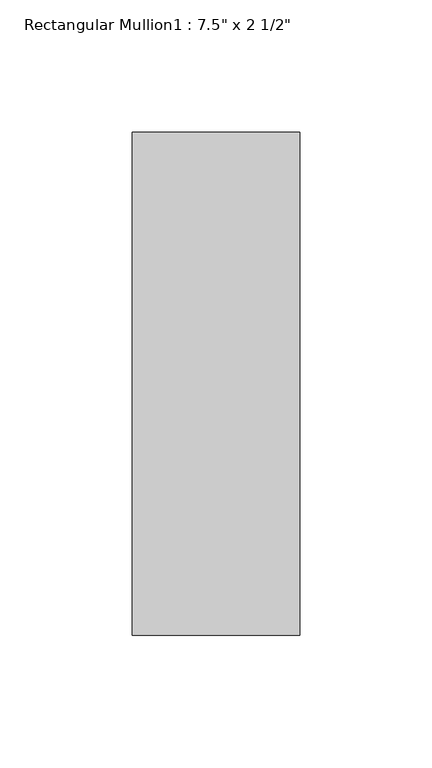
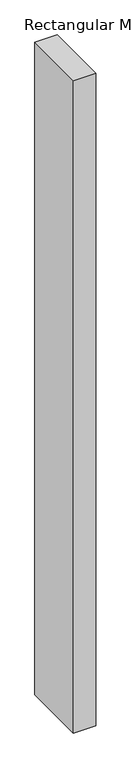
"""IFC4 building model written with IfcOpenShell, lengths in millimetres: member geometry."""

from ifc_helpers import new_model, si_unit, frame, origin, place, context, project, spatial, polyline, outline, extrude, source, transform, mapped, element, save


def member_06e4f5b3(model_context):
    return source(origin(), model_context, "Body", "SweptSolid", [
        extrude(outline(polyline([(31.75, 165.1), (31.75, -25.4), (-31.75, -25.4), (-31.75, 165.1), (31.75, 165.1)])), frame((0.0, 0.0, -1968.499999), z_axis=(0.0, 0.0, 1.0), x_axis=(1.0, 0.0, 0.0)), (0.0, 0.0, 1.0), 1968.499999),
    ])


if __name__ == "__main__":
    model = new_model("IFC4")
    model_context = context("Model", 3, world=origin())
    ifc_project = project(units=[si_unit("LENGTHUNIT", "METRE", prefix="MILLI")], contexts=[model_context])
    site = spatial("IfcSite", under=ifc_project)
    building = spatial("IfcBuilding", under=site)
    placement = place(None, origin())
    member_shape = member_06e4f5b3(model_context)
    element("IfcMember", 1, ObjectType="Rectangular Mullion1 : 7.5\" x 2 1/2\"", at=placement, inside=building, context=model_context, shape_type="MappedRepresentation", body=[
        mapped(member_shape, transform((0.0, 0.0, 0.0), x_axis=(1.0, 0.0, 0.0), y_axis=(0.0, 1.0, 0.0), z_axis=(0.0, 0.0, 1.0))),
    ])
    save(model, "model.ifc")
